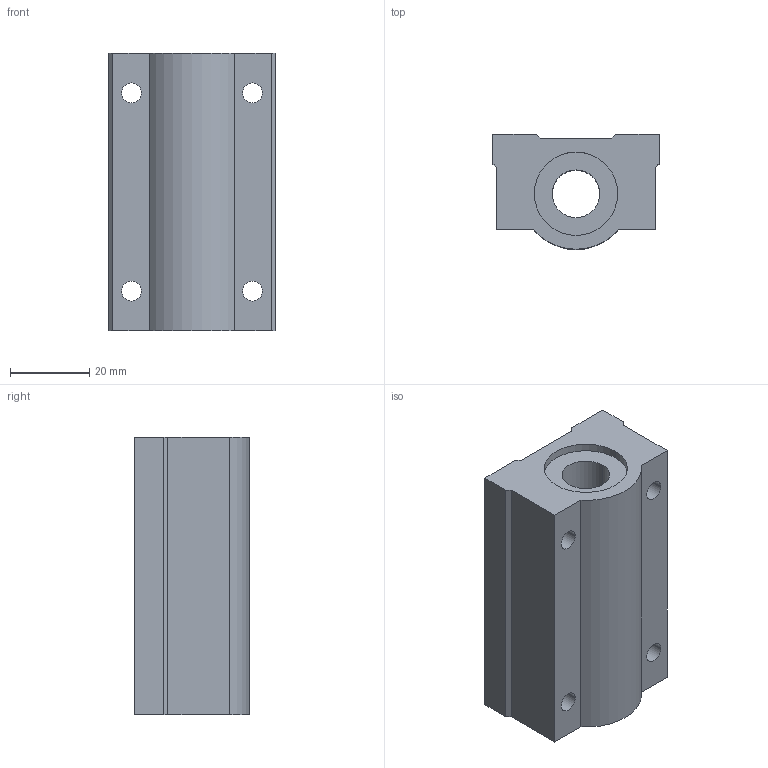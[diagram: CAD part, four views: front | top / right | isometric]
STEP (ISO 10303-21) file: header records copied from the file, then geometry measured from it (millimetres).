
FILE_DESCRIPTION((''),'2;1');
FILE_NAME('C:\Documents and Settings\ｿﾀﾀ蠑ｷ1\ｹﾙﾅﾁ ﾈｭｸ饅\ｺﾎﾇｰﾆﾄﾀﾏ\ﾁｦﾇｰ\SC__WUUN\SC12WUUN.stp','2005-06-22T14:37:24',('ｿﾀﾀ蠑ｷ1'),(''),'Autodesk Inventor 9','Autodesk Inventor 9','');
FILE_SCHEMA(('AUTOMOTIVE_DESIGN { 1 0 10303 214 1 1 1 1 }'));
Length unit declared in the file: millimetre
Products named in the file (1): SC__UUN
Bounding box: 42 x 29 x 70 mm (x, y, z)
Volume: 61457.1 mm3; surface area: 15364 mm2
Topology: 1 solids, 1 shells, 32 faces, 84 edges, 56 vertices
Faces by surface type: plane 17, bspline 8, cylinder 7
Entity records: 1145 total; most frequent: CARTESIAN_POINT 309, ORIENTED_EDGE 168, DIRECTION 164, EDGE_CURVE 84, VERTEX_POINT 56, AXIS2_PLACEMENT_3D 55, VECTOR 54, LINE 54
